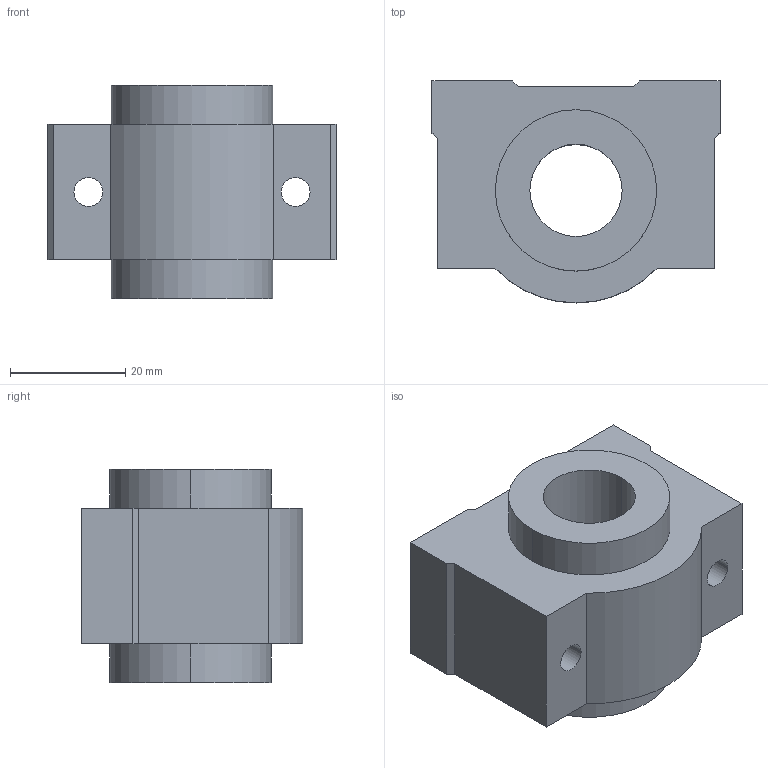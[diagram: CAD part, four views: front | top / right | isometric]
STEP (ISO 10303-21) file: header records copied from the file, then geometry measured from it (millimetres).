
FILE_DESCRIPTION((''),'2;1');
FILE_NAME('C:\Documents and Settings\ｿﾀﾀ蠑ｷ1\ｹﾙﾅﾁ ﾈｭｸ饅\ｺﾎﾇｰﾆﾄﾀﾏ\ﾁｦﾇｰ\SC__VUU\SC16VUUN.stp','2005-06-22T14:23:02',('ｿﾀﾀ蠑ｷ1'),(''),'Autodesk Inventor 9','Autodesk Inventor 9','');
FILE_SCHEMA(('AUTOMOTIVE_DESIGN { 1 0 10303 214 1 1 1 1 }'));
Length unit declared in the file: millimetre
Products named in the file (1): SC__VUUN
Bounding box: 50 x 38.5 x 37 mm (x, y, z)
Volume: 38949.4 mm3; surface area: 10883.6 mm2
Topology: 1 solids, 1 shells, 28 faces, 72 edges, 48 vertices
Faces by surface type: plane 17, cylinder 7, bspline 4
Entity records: 945 total; most frequent: CARTESIAN_POINT 217, DIRECTION 144, ORIENTED_EDGE 144, EDGE_CURVE 72, VECTOR 50, LINE 50, VERTEX_POINT 48, AXIS2_PLACEMENT_3D 47
